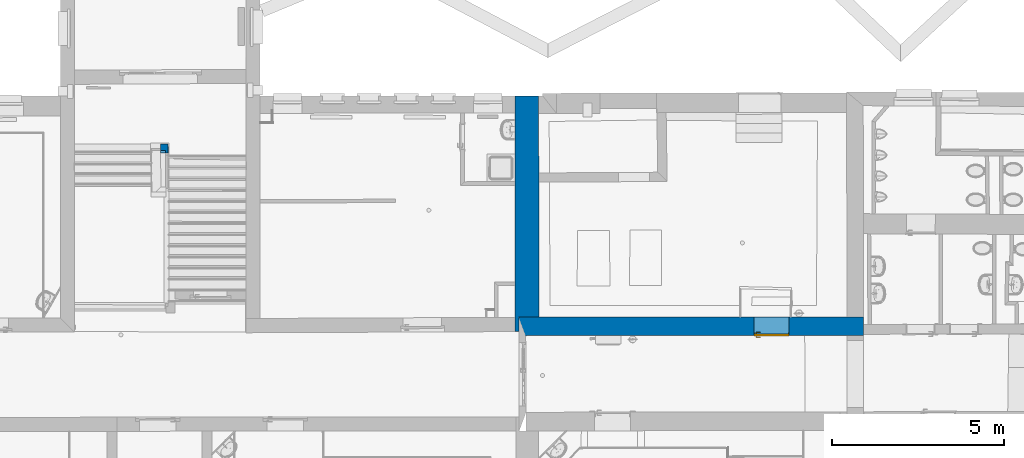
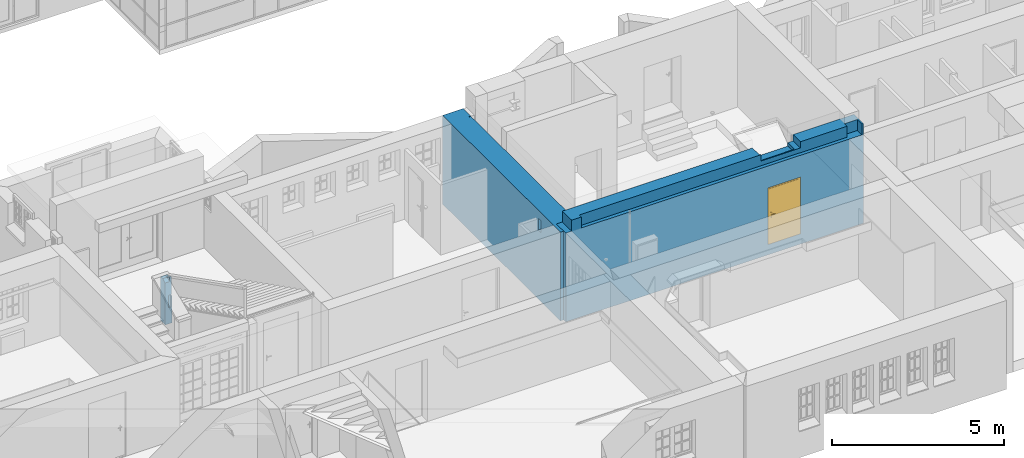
# One storey, part 92 of 196: 3 walls, 1 door, 4 openings.
"""IFC2X3 building model written with IfcOpenShell, lengths in metres."""

from ifc_helpers import new_model, entity, si_unit, converted_unit, derived_unit, money_unit, direction, frame, origin_with_axes, origin_2d_with_axis, place, context, subcontext, project, spatial, polyline, rectangle, outline, extrude, boolean, open_shell, faceted_brep, surface_model, material, type_object, element, fill, save


model = new_model("IFC2X3")

# Units and contexts
model_context = context("Model", 3, precision=1e-05, world=origin_with_axes(), true_north=direction((0.0, 1.0)))
body_context = subcontext(model_context, "Body", "Model", "MODEL_VIEW")
ifc_project = project(units=[si_unit("LENGTHUNIT", "METRE"), si_unit("AREAUNIT", "SQUARE_METRE"), si_unit("VOLUMEUNIT", "CUBIC_METRE"), converted_unit("PLANEANGLEUNIT", "DEGREE", entity("IfcPlaneAngleMeasure", 0.0174532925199), si_unit("PLANEANGLEUNIT", "RADIAN"), dimensions=[0, 0, 0, 0, 0, 0, 0]), money_unit("EUR"), converted_unit("TIMEUNIT", "Year", entity("IfcTimeMeasure", 31556926.0), si_unit("TIMEUNIT", "SECOND"), dimensions=[0, 0, 1, 0, 0, 0, 0]), si_unit("MASSUNIT", "GRAM", prefix="KILO"), si_unit("THERMODYNAMICTEMPERATUREUNIT", "DEGREE_CELSIUS"), si_unit("LUMINOUSINTENSITYUNIT", "LUMEN"), si_unit("ENERGYUNIT", "JOULE", prefix="MEGA"), derived_unit("THERMALCONDUCTANCEUNIT", [(si_unit("POWERUNIT", "WATT"), 1), (si_unit("LENGTHUNIT", "METRE"), -1), (si_unit("THERMODYNAMICTEMPERATUREUNIT", "KELVIN"), -1)]), derived_unit("SPECIFICHEATCAPACITYUNIT", [(si_unit("ENERGYUNIT", "JOULE"), 1), (si_unit("MASSUNIT", "GRAM", prefix="KILO"), -1), (si_unit("THERMODYNAMICTEMPERATUREUNIT", "KELVIN"), -1)]), derived_unit("MASSDENSITYUNIT", [(si_unit("MASSUNIT", "GRAM", prefix="KILO"), 1), (si_unit("VOLUMEUNIT", "CUBIC_METRE"), -1)])], contexts=[model_context])

# Site, building, storey
site_placement = place(None, origin_with_axes())
site = spatial("IfcSite", under=ifc_project, at=site_placement, Name="Gelände", CompositionType="ELEMENT")
building_placement = place(site_placement, origin_with_axes())
building = spatial("IfcBuilding", under=site, at=building_placement, Name="Gebäude", CompositionType="ELEMENT")
storey_placement = place(building_placement, frame((0.0, 0.0, -3.0), z_axis=(0.0, 0.0, 1.0), x_axis=(1.0, 0.0, 0.0)))
storey = spatial("IfcBuildingStorey", under=building, at=storey_placement, Name="KELLERGESCHOSS", CompositionType="ELEMENT", Elevation=-3.0)

# Wall
ifc_material = material(Name="05_ALLGEMEIN - TRAGENDE BAUTEILE")
wall_type_1 = type_object("IfcWallType", Name="05_ALLGEMEIN - TRAGENDE BAUTEILE 264", PredefinedType="ELEMENTEDWALL")
wall_1_placement = place(storey_placement, frame((-7.61079491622, 24.7121057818, -0.04), z_axis=(0.0, 0.0, 1.0), x_axis=(0.999982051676, 0.00599135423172, 0.0)))
element("IfcWall", 1, at=wall_1_placement, inside=storey, type_object=wall_type_1, material=ifc_material, Name="Wand-039", ObjectType="ELEMENTEDWALL", context=body_context, shape_type="CSG", body=[
    boolean("DIFFERENCE", extrude(outline(polyline([(0.0, -0.263583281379), (0.485772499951, -0.263583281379), (0.485772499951, 0.0), (0.0, 0.0), (0.0, -0.263583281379)])), origin_with_axes(), (0.0, 0.0, 1.0), 1.64745696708), faceted_brep([(0.484123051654, -0.263583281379, 0.573350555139), (0.484123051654, -0.263583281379, 0.976490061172), (0.485772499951, -0.263583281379, 0.976490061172), (0.485772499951, -0.263583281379, 1.64745696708), (0.484094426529, -0.263583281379, 1.64745696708), (0.484094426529, -0.263583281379, 1.00982293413), (0.382342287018, -0.263583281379, 1.01015037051), (0.382342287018, -0.263583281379, 0.573678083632), (0.484498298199, -0.204651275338, 0.54356630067), (0.484498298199, -0.204651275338, 0.976490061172), (0.485772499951, 0.0, 0.976490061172), (0.484469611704, -0.204651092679, 0.976490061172), (0.485772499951, 0.0, 1.5591306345), (0.485772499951, 0.0, 1.64745696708), (0.484102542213, -0.262308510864, 1.64745696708), (0.0, 0.0, 1.64745696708), (0.0, -0.263583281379, 1.64745696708), (0.411256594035, -0.263583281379, 1.64745696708), (0.411259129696, -0.261844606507, 1.64745696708), (0.484469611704, -0.204651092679, 0.980038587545), (0.484993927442, -0.122294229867, 1.5761521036), (0.484993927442, -0.122294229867, 1.55913013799), (0.382721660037, -0.204003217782, 0.980038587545), (0.382721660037, -0.204003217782, 0.54356630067), (0.263583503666, 0.0, 1.55894684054), (0.263583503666, 0.0, 0.0), (0.0, 0.0, 0.0), (0.0, -0.263583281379, 0.0), (0.411256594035, -0.263583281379, 1.49080072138), (0.263925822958, -0.263583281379, 0.0), (0.263925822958, -0.263583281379, 1.49069752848), (0.411462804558, -0.122187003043, 1.5587089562), (0.411462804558, -0.122187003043, 1.55906931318), (0.411462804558, -0.122187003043, 1.57633596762), (0.263741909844, -0.12197156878, 1.55894711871), (0.263741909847, -0.12197156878, 1.5587089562)], [[[0, 1, 2, 3, 4, 5, 6, 7]], [[1, 0, 8, 9]], [[10, 2, 1, 9, 11]], [[10, 12, 13, 3, 2]], [[14, 4, 3, 13, 15, 16, 17, 18]], [[12, 10, 11, 19, 5, 4, 14, 20, 21]], [[6, 5, 19, 22]], [[7, 6, 22, 23]], [[0, 7, 23, 8]], [[23, 22, 19, 11, 9, 8]], [[24, 25, 26, 15, 13, 12]], [[15, 26, 27, 16]], [[28, 17, 16, 27, 29, 30]], [[18, 17, 28, 31, 32, 33]], [[14, 18, 33, 20]], [[20, 33, 32, 21]], [[24, 12, 21, 32, 34]], [[30, 29, 25, 24, 34, 35]], [[25, 29, 27, 26]], [[28, 30, 35, 31]], [[35, 34, 32, 31]]])),
])

# Wall, openings, door
wall_type_2 = type_object("IfcWallType", Name="05_ALLGEMEIN - TRAGENDE BAUTEILE 538", PredefinedType="ELEMENTEDWALL")
wall_2_placement = place(storey_placement, frame((3.23831877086, 19.1591070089, -0.36), z_axis=(0.0, 0.0, 1.0), x_axis=(0.999999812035, 0.000613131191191, 0.0)))
wall_2 = element("IfcWall", 2, at=wall_2_placement, inside=storey, type_object=wall_type_2, material=ifc_material, Name="Wand-038", ObjectType="ELEMENTEDWALL", context=body_context, shape_type="CSG", body=[
    boolean("DIFFERENCE", boolean("DIFFERENCE", boolean("DIFFERENCE", boolean("DIFFERENCE", extrude(outline(polyline([(-0.201982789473, 0.0), (9.78961499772, 0.0), (9.78961499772, 0.537843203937), (-0.201982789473, 0.537843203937), (-0.201982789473, 0.0)])), origin_with_axes(), (0.0, 0.0, 1.0), 3.54), faceted_brep([(-0.200001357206, 0.0, 3.15), (0.0, 0.0, 3.15), (0.0, 0.0, 3.54), (-0.201982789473, 0.0, 3.54), (-0.201982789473, 0.0, 0.0), (-0.200001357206, 0.0, 0.0), (-0.201982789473, 0.537843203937, 3.15), (0.0, 0.537843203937, 3.15), (0.0, 0.537843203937, 3.54), (-0.201982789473, 0.537843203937, 3.54), (-0.201982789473, 0.537843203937, 0.0)], [[[0, 1, 2, 3, 4, 5]], [[1, 0, 6, 7]], [[8, 2, 1, 7]], [[2, 8, 9, 3]], [[6, 10, 4, 3, 9]], [[10, 5, 4]], [[0, 5, 10, 6]], [[7, 6, 9, 8]]])), faceted_brep([(6.37380234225, 0.537843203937, 3.54), (6.38171061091, 0.140979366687, 3.54), (7.56170069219, 0.155456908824, 3.54), (7.55963397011, 0.537843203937, 3.54), (6.37380234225, 0.537843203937, 3.19), (6.38171061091, 0.140979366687, 3.19), (6.38171061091, 0.140979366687, 3.505), (7.56170069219, 0.155456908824, 3.19), (7.56170069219, 0.155456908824, 3.505), (7.55963397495, 0.537843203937, 3.19)], [[[0, 1, 2, 3]], [[1, 0, 4, 5, 6]], [[2, 1, 6, 5, 7, 8]], [[3, 2, 8, 7, 9]], [[4, 0, 3, 9]], [[4, 9, 7, 5]]])), faceted_brep([(0.324066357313, 0.0, 3.15), (9.73943211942, 0.0, 3.15), (9.73943211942, 0.0, 3.54), (0.324066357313, 0.0, 3.54), (0.323947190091, 0.11928083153, 3.15), (9.30856249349, 0.116387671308, 3.15), (9.30858073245, 0.259817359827, 3.15), (9.73946562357, 0.263473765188, 3.15), (9.73946562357, 0.263473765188, 3.54), (0.323947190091, 0.11928083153, 3.54), (9.30858073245, 0.259817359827, 3.54), (9.30856249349, 0.116387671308, 3.54), (0.323947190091, 0.11928083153, 3.29), (9.30856249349, 0.116387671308, 3.29)], [[[0, 1, 2, 3]], [[1, 0, 4, 5, 6, 7]], [[8, 2, 1, 7]], [[9, 3, 2, 8, 10, 11]], [[0, 3, 9, 12, 4]], [[9, 11, 13, 5, 4, 12]], [[11, 10, 6, 5, 13]], [[10, 8, 7, 6]]])), faceted_brep([(9.78948896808, 0.537843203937, 3.54), (9.78961499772, 0.0, 3.54), (9.78961499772, 0.537843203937, 3.54), (9.78961499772, 0.0, 0.0), (9.78948896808, 0.537843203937, 0.0), (9.78961499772, 0.537843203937, 0.0)], [[[0, 1, 2]], [[3, 1, 0, 4]], [[1, 3, 5, 2]], [[4, 0, 2, 5]], [[3, 4, 5]]])),
])
opening_1_placement = place(wall_2_placement, frame((7.12612857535, 0.0, 0.372925), z_axis=(0.0, 0.0, 1.0), x_axis=(1.0, 0.0, 0.0)))
opening_1 = element("IfcOpeningElement", 3, at=opening_1_placement, cuts=wall_2, Name="Tür-022", context=body_context, shape_type="SweptSolid", body=[
    extrude(rectangle(XDim=1.00454069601, YDim=1.964683, at=origin_2d_with_axis()), frame((0.0, 0.537843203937, 0.9823415), z_axis=(0.0, 1.0, 0.0), x_axis=(1.0, 0.0, 0.0)), (0.0, 0.0, -1.0), 1.61352961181),
])
opening_2_placement = place(wall_2_placement, frame((7.0785824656, 0.0, 3.316246), z_axis=(0.0, 0.0, 1.0), x_axis=(1.0, 0.0, 0.0)))
element("IfcOpeningElement", 4, at=opening_2_placement, cuts=wall_2, Name="Tür-022", context=body_context, shape_type="SweptSolid", body=[
    extrude(rectangle(XDim=1.32313241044, YDim=0.223754, at=origin_2d_with_axis()), frame((0.0, 0.537843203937, 0.111877), z_axis=(0.0, 1.0, 0.0), x_axis=(-1.0, 0.0, 0.0)), (0.0, 0.0, -1.0), 1.61352961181),
])
door_style = type_object("IfcDoorStyle", Name="Blockrahmentür 1-Fl 25", ConstructionType="NOTDEFINED", OperationType="SINGLE_SWING_LEFT", ParameterTakesPrecedence=False, Sizeable=False)
door_placement = place(opening_1_placement, frame((0.487270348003, 0.0, 0.0), z_axis=(0.0, 0.0, 1.0), x_axis=(-1.0, 0.0, 0.0)))
door = element("IfcDoor", 5, at=door_placement, inside=storey, type_object=door_style, Name="Tür-022", ObjectType="NOTDEFINED", OverallHeight=1.96468, OverallWidth=1.00454, context=body_context, shape_type="SurfaceModel", body=[
    faceted_brep([(-0.015, -0.093, 0.0), (-0.015, -0.093, 1.964683), (-0.015, -0.048, 1.964683), (-0.015, -0.048, 0.0), (0.0, -0.093, 0.0), (0.0, -0.093, 1.949683), (0.372170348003, -0.093, 1.949683), (0.487170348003, -0.093, 1.949683), (0.974540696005, -0.093, 1.949683), (0.974540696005, -0.093, 0.0), (0.989540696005, -0.093, 0.0), (0.989540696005, -0.093, 1.964683), (0.989540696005, -0.048, 1.964683), (0.989540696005, -0.048, 0.0), (0.974540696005, -0.048, 0.0), (0.974540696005, -0.048, 1.949683), (0.487170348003, -0.048, 1.949683), (0.372170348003, -0.048, 1.949683), (0.0, -0.048, 1.949683), (0.0, -0.048, 0.0)], [[[0, 1, 2, 3]], [[0, 4, 5, 6, 7, 8, 9, 10, 11, 1]], [[1, 11, 12, 2]], [[3, 2, 12, 13, 14, 15, 16, 17, 18, 19]], [[4, 0, 3, 19]], [[5, 4, 19, 18]], [[6, 5, 18, 17]], [[7, 6, 17, 16]], [[8, 7, 16, 15]], [[9, 8, 15, 14]], [[10, 9, 14, 13]], [[11, 10, 13, 12]]]),
    surface_model("IfcShellBasedSurfaceModel", [(-0.015, -0.048, 0.0), (-0.015, -0.048, 1.964683), (-0.015, 0.002, 1.964683), (-0.015, 0.002, 0.0), (0.989540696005, -0.048, 1.964683), (0.472170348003, -0.048, 1.964683), (0.387170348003, -0.048, 1.964683), (0.387170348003, 0.002, 1.964683), (0.472170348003, 0.002, 1.964683), (0.989540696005, 0.002, 1.964683), (-0.015, 0.002, 1.964683), (-0.015, -0.048, 1.964683), (0.989540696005, 0.002, 1.964683), (0.989540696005, -0.048, 0.0), (0.989540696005, 0.002, 0.0), (0.989540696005, -0.048, 1.964683)], [open_shell([[[0, 1, 2, 3]], [[4, 5, 6, 1]], [[1, 6, 7, 2]], [[7, 8, 9, 10]], [[11, 0, 3, 10]], [[4, 11, 10, 12]], [[13, 4, 12, 14]], [[15, 13, 14, 9]], [[5, 15, 9, 8]], [[6, 5, 8, 7]]])]),
    faceted_brep([(-0.055, 0.0, 0.0), (-0.055, 0.0, 2.004683), (-0.055, 0.002, 2.004683), (-0.055, 0.002, 0.0), (-0.015, 0.0, 0.0), (-0.015, 0.0, 1.964683), (0.989540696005, 0.0, 1.964683), (0.989540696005, 0.0, 0.0), (1.02954069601, 0.0, 0.0), (1.02954069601, 0.0, 2.004683), (1.02954069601, 0.002, 2.004683), (1.02954069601, 0.002, 0.0), (0.989540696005, 0.002, 0.0), (0.989540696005, 0.002, 1.964683), (-0.015, 0.002, 1.964683), (-0.015, 0.002, 0.0)], [[[0, 1, 2, 3]], [[0, 4, 5, 6, 7, 8, 9, 1]], [[1, 9, 10, 2]], [[3, 2, 10, 11, 12, 13, 14, 15]], [[4, 0, 3, 15]], [[5, 4, 15, 14]], [[6, 5, 14, 13]], [[7, 6, 13, 12]], [[8, 7, 12, 11]], [[9, 8, 11, 10]]]),
    faceted_brep([(-0.015, 0.007, 0.0), (-0.015, 0.007, 1.964683), (0.989540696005, 0.007, 1.964683), (0.989540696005, 0.007, 0.0), (-0.015, -0.048, 0.0), (-0.015, -0.048, 1.964683), (0.989540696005, -0.048, 1.964683), (0.989540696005, -0.048, 0.0)], [[[0, 1, 2, 3]], [[0, 4, 5, 1]], [[1, 5, 6, 2]], [[2, 6, 7, 3]], [[3, 7, 4, 0]], [[7, 6, 5, 4]]]),
    faceted_brep([(0.934242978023, -0.088, 1.05647213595), (0.934242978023, -0.068, 1.05647213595), (0.929540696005, -0.068, 1.058), (0.929540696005, -0.088, 1.058), (0.937149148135, -0.088, 1.05247213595), (0.937149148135, -0.068, 1.05247213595), (0.935418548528, -0.066, 1.05809016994), (0.929540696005, -0.066, 1.06), (0.924838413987, -0.068, 1.05647213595), (0.924838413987, -0.088, 1.05647213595), (0.921932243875, -0.088, 1.05247213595), (0.921932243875, -0.088, 1.04752786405), (0.924838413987, -0.088, 1.04352786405), (0.929540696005, -0.088, 1.042), (0.934242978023, -0.088, 1.04352786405), (0.937149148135, -0.088, 1.04752786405), (0.937149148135, -0.068, 1.04752786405), (0.939051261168, -0.066, 1.05309016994), (0.935418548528, -0.058, 1.05809016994), (0.929540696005, -0.058, 1.06), (0.923662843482, -0.066, 1.05809016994), (0.921932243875, -0.068, 1.05247213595), (0.921932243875, -0.068, 1.04752786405), (0.924838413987, -0.068, 1.04352786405), (0.929540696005, -0.068, 1.042), (0.934242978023, -0.068, 1.04352786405), (0.939051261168, -0.066, 1.04690983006), (0.939051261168, -0.058, 1.05309016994), (0.939051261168, -0.058, 1.04690983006), (0.935418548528, -0.058, 1.04190983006), (0.929540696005, -0.058, 1.04), (0.923662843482, -0.058, 1.04190983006), (0.920030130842, -0.058, 1.04690983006), (0.920030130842, -0.058, 1.05309016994), (0.923662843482, -0.058, 1.05809016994), (0.920030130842, -0.066, 1.05309016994), (0.920030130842, -0.066, 1.04690983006), (0.923662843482, -0.066, 1.04190983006), (0.929540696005, -0.066, 1.04), (0.935418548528, -0.066, 1.04190983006)], [[[0, 1, 2, 3]], [[4, 5, 1, 0]], [[1, 6, 7, 2]], [[3, 2, 8, 9]], [[3, 9, 10, 11, 12, 13, 14, 15, 4, 0]], [[15, 16, 5, 4]], [[5, 17, 6, 1]], [[6, 18, 19, 7]], [[2, 7, 20, 8]], [[9, 8, 21, 10]], [[10, 21, 22, 11]], [[11, 22, 23, 12]], [[12, 23, 24, 13]], [[13, 24, 25, 14]], [[14, 25, 16, 15]], [[16, 26, 17, 5]], [[17, 27, 18, 6]], [[19, 18, 27, 28, 29, 30, 31, 32, 33, 34]], [[7, 19, 34, 20]], [[8, 20, 35, 21]], [[21, 35, 36, 22]], [[22, 36, 37, 23]], [[23, 37, 38, 24]], [[24, 38, 39, 25]], [[25, 39, 26, 16]], [[26, 28, 27, 17]], [[39, 29, 28, 26]], [[38, 30, 29, 39]], [[37, 31, 30, 38]], [[36, 32, 31, 37]], [[35, 33, 32, 36]], [[20, 34, 33, 35]]]),
    faceted_brep([(0.91735231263, -0.058, 1.11759695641), (0.912740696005, -0.058, 1.11), (0.907040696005, -0.058, 1.11), (0.907040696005, -0.058, 0.89), (0.912740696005, -0.058, 0.89), (0.91735231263, -0.058, 0.882403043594), (0.92509714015, -0.058, 0.878044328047), (0.93398425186, -0.058, 0.878044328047), (0.94172907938, -0.058, 0.882403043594), (0.946340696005, -0.058, 0.89), (0.952040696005, -0.058, 0.89), (0.952040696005, -0.058, 1.11), (0.946340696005, -0.058, 1.11), (0.94172907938, -0.058, 1.11759695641), (0.93398425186, -0.058, 1.12195567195), (0.92509714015, -0.058, 1.12195567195), (0.929540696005, -0.058, 0.967425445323), (0.93491587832, -0.058, 0.965143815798), (0.937008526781, -0.058, 0.959692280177), (0.934540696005, -0.058, 0.9544), (0.934540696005, -0.058, 0.9375), (0.933076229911, -0.058, 0.933964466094), (0.929540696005, -0.058, 0.9325), (0.926005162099, -0.058, 0.933964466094), (0.924540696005, -0.058, 0.9375), (0.924540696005, -0.058, 0.9544), (0.922072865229, -0.058, 0.959692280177), (0.92416551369, -0.058, 0.965143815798), (0.91735231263, -0.048, 1.11759695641), (0.912740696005, -0.048, 1.11), (0.907040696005, -0.048, 1.11), (0.907040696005, -0.048, 0.89), (0.912740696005, -0.048, 0.89), (0.91735231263, -0.048, 0.882403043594), (0.92509714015, -0.048, 0.878044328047), (0.93398425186, -0.048, 0.878044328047), (0.94172907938, -0.048, 0.882403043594), (0.946340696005, -0.048, 0.89), (0.952040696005, -0.048, 0.89), (0.952040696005, -0.048, 1.11), (0.946340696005, -0.048, 1.11), (0.94172907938, -0.048, 1.11759695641), (0.93398425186, -0.048, 1.12195567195), (0.92509714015, -0.048, 1.12195567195), (0.929540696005, -0.048, 0.967425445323), (0.93491587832, -0.048, 0.965143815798), (0.937008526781, -0.048, 0.959692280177), (0.934540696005, -0.048, 0.9544), (0.934540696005, -0.048, 0.9375), (0.933076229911, -0.048, 0.933964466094), (0.929540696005, -0.048, 0.9325), (0.926005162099, -0.048, 0.933964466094), (0.924540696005, -0.048, 0.9375), (0.924540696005, -0.048, 0.9544), (0.922072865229, -0.048, 0.959692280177), (0.92416551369, -0.048, 0.965143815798)], [[[0, 1, 2, 3, 4, 5, 6, 7, 8, 9, 10, 11, 12, 13, 14, 15], [16, 17, 18, 19, 20, 21, 22, 23, 24, 25, 26, 27]], [[0, 28, 29, 1]], [[1, 29, 30, 2]], [[2, 30, 31, 3]], [[3, 31, 32, 4]], [[4, 32, 33, 5]], [[5, 33, 34, 6]], [[6, 34, 35, 7]], [[7, 35, 36, 8]], [[8, 36, 37, 9]], [[9, 37, 38, 10]], [[10, 38, 39, 11]], [[11, 39, 40, 12]], [[12, 40, 41, 13]], [[13, 41, 42, 14]], [[14, 42, 43, 15]], [[15, 43, 28, 0]], [[16, 44, 45, 17]], [[17, 45, 46, 18]], [[18, 46, 47, 19]], [[47, 48, 20, 19]], [[21, 20, 48, 49]], [[22, 21, 49, 50]], [[23, 22, 50, 51]], [[24, 23, 51, 52]], [[25, 24, 52, 53]], [[25, 53, 54, 26]], [[26, 54, 55, 27]], [[27, 55, 44, 16]], [[32, 31, 30, 29, 28, 43, 42, 41, 40, 39, 38, 37, 36, 35, 34, 33], [46, 45, 44, 55, 54, 53, 52, 51, 50, 49, 48, 47]]]),
    faceted_brep([(0.815287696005, -0.088, 1.057158), (0.815286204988, -0.088, 1.05719388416), (0.815286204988, -0.103, 1.05719388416), (0.815287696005, -0.103, 1.057158), (0.842315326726, -0.088, 1.06432652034), (0.870143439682, -0.088, 1.06706086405), (0.898049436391, -0.088, 1.06529002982), (0.925308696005, -0.088, 1.05906), (0.931711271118, -0.088, 1.05976125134), (0.937213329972, -0.088, 1.05641280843), (0.939532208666, -0.088, 1.05040385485), (0.937705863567, -0.088, 1.04422735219), (0.93249199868, -0.088, 1.04044577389), (0.926053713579, -0.088, 1.04062800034), (0.921062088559, -0.088, 1.04469843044), (0.921082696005, -0.088, 1.044666), (0.895793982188, -0.088, 1.05019878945), (0.869951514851, -0.088, 1.05171460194), (0.844189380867, -0.088, 1.04917624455), (0.819139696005, -0.088, 1.042646), (0.813596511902, -0.088, 1.04356849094), (0.810234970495, -0.088, 1.04807159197), (0.81092654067, -0.088, 1.05364829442), (0.81092654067, -0.103, 1.05364829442), (0.810234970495, -0.103, 1.04807159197), (0.813596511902, -0.103, 1.04356849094), (0.819139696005, -0.103, 1.042646), (0.844189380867, -0.103, 1.04917624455), (0.869951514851, -0.103, 1.05171460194), (0.895793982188, -0.103, 1.05019878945), (0.921082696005, -0.103, 1.044666), (0.921062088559, -0.103, 1.04469843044), (0.926053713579, -0.103, 1.04062800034), (0.93249199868, -0.103, 1.04044577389), (0.937705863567, -0.103, 1.04422735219), (0.939532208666, -0.103, 1.05040385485), (0.937213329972, -0.103, 1.05641280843), (0.931711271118, -0.103, 1.05976125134), (0.925308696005, -0.103, 1.05906), (0.898049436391, -0.103, 1.06529002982), (0.870143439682, -0.103, 1.06706086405), (0.842315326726, -0.103, 1.06432652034)], [[[0, 1, 2, 3]], [[0, 4, 5, 6, 7, 8, 9, 10, 11, 12, 13, 14, 15, 16, 17, 18, 19, 20, 21, 22, 1]], [[1, 22, 23, 2]], [[3, 2, 23, 24, 25, 26, 27, 28, 29, 30, 31, 32, 33, 34, 35, 36, 37, 38, 39, 40, 41]], [[4, 0, 3, 41]], [[5, 4, 41, 40]], [[6, 5, 40, 39]], [[7, 6, 39, 38]], [[8, 7, 38, 37]], [[9, 8, 37, 36]], [[10, 9, 36, 35]], [[11, 10, 35, 34]], [[12, 11, 34, 33]], [[13, 12, 33, 32]], [[14, 13, 32, 31]], [[15, 14, 31, 30]], [[16, 15, 30, 29]], [[17, 16, 29, 28]], [[18, 17, 28, 27]], [[19, 18, 27, 26]], [[20, 19, 26, 25]], [[21, 20, 25, 24]], [[22, 21, 24, 23]]]),
    faceted_brep([(0.934242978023, 0.047, 1.05647213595), (0.929540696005, 0.047, 1.058), (0.929540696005, 0.027, 1.058), (0.934242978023, 0.027, 1.05647213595), (0.937149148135, 0.047, 1.05247213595), (0.937149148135, 0.047, 1.04752786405), (0.934242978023, 0.047, 1.04352786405), (0.929540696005, 0.047, 1.042), (0.924838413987, 0.047, 1.04352786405), (0.921932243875, 0.047, 1.04752786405), (0.921932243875, 0.047, 1.05247213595), (0.924838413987, 0.047, 1.05647213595), (0.924838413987, 0.027, 1.05647213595), (0.929540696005, 0.025, 1.06), (0.935418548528, 0.025, 1.05809016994), (0.937149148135, 0.027, 1.05247213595), (0.937149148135, 0.027, 1.04752786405), (0.934242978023, 0.027, 1.04352786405), (0.929540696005, 0.027, 1.042), (0.924838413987, 0.027, 1.04352786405), (0.921932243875, 0.027, 1.04752786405), (0.921932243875, 0.027, 1.05247213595), (0.923662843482, 0.025, 1.05809016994), (0.929540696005, 0.017, 1.06), (0.935418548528, 0.017, 1.05809016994), (0.939051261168, 0.025, 1.05309016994), (0.939051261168, 0.025, 1.04690983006), (0.935418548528, 0.025, 1.04190983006), (0.929540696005, 0.025, 1.04), (0.923662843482, 0.025, 1.04190983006), (0.920030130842, 0.025, 1.04690983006), (0.920030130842, 0.025, 1.05309016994), (0.923662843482, 0.017, 1.05809016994), (0.920030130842, 0.017, 1.05309016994), (0.920030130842, 0.017, 1.04690983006), (0.923662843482, 0.017, 1.04190983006), (0.929540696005, 0.017, 1.04), (0.935418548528, 0.017, 1.04190983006), (0.939051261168, 0.017, 1.04690983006), (0.939051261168, 0.017, 1.05309016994)], [[[0, 1, 2, 3]], [[1, 0, 4, 5, 6, 7, 8, 9, 10, 11]], [[1, 11, 12, 2]], [[3, 2, 13, 14]], [[4, 0, 3, 15]], [[5, 4, 15, 16]], [[6, 5, 16, 17]], [[7, 6, 17, 18]], [[8, 7, 18, 19]], [[9, 8, 19, 20]], [[10, 9, 20, 21]], [[11, 10, 21, 12]], [[2, 12, 22, 13]], [[14, 13, 23, 24]], [[15, 3, 14, 25]], [[16, 15, 25, 26]], [[17, 16, 26, 27]], [[18, 17, 27, 28]], [[19, 18, 28, 29]], [[20, 19, 29, 30]], [[21, 20, 30, 31]], [[12, 21, 31, 22]], [[13, 22, 32, 23]], [[23, 32, 33, 34, 35, 36, 37, 38, 39, 24]], [[25, 14, 24, 39]], [[26, 25, 39, 38]], [[27, 26, 38, 37]], [[28, 27, 37, 36]], [[29, 28, 36, 35]], [[30, 29, 35, 34]], [[31, 30, 34, 33]], [[22, 31, 33, 32]]]),
    faceted_brep([(0.91735231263, 0.007, 1.11759695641), (0.912740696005, 0.007, 1.11), (0.907040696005, 0.007, 1.11), (0.907040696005, 0.007, 0.89), (0.912740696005, 0.007, 0.89), (0.91735231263, 0.007, 0.882403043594), (0.92509714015, 0.007, 0.878044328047), (0.93398425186, 0.007, 0.878044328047), (0.94172907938, 0.007, 0.882403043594), (0.946340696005, 0.007, 0.89), (0.952040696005, 0.007, 0.89), (0.952040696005, 0.007, 1.11), (0.946340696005, 0.007, 1.11), (0.94172907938, 0.007, 1.11759695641), (0.93398425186, 0.007, 1.12195567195), (0.92509714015, 0.007, 1.12195567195), (0.929540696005, 0.007, 0.967425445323), (0.93491587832, 0.007, 0.965143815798), (0.937008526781, 0.007, 0.959692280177), (0.934540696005, 0.007, 0.9544), (0.934540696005, 0.007, 0.9375), (0.933076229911, 0.007, 0.933964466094), (0.929540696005, 0.007, 0.9325), (0.926005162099, 0.007, 0.933964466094), (0.924540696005, 0.007, 0.9375), (0.924540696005, 0.007, 0.9544), (0.922072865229, 0.007, 0.959692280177), (0.92416551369, 0.007, 0.965143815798), (0.91735231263, 0.017, 1.11759695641), (0.912740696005, 0.017, 1.11), (0.907040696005, 0.017, 1.11), (0.907040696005, 0.017, 0.89), (0.912740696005, 0.017, 0.89), (0.91735231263, 0.017, 0.882403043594), (0.92509714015, 0.017, 0.878044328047), (0.93398425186, 0.017, 0.878044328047), (0.94172907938, 0.017, 0.882403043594), (0.946340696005, 0.017, 0.89), (0.952040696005, 0.017, 0.89), (0.952040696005, 0.017, 1.11), (0.946340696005, 0.017, 1.11), (0.94172907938, 0.017, 1.11759695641), (0.93398425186, 0.017, 1.12195567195), (0.92509714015, 0.017, 1.12195567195), (0.929540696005, 0.017, 0.967425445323), (0.93491587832, 0.017, 0.965143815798), (0.937008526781, 0.017, 0.959692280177), (0.934540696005, 0.017, 0.9544), (0.934540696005, 0.017, 0.9375), (0.933076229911, 0.017, 0.933964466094), (0.929540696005, 0.017, 0.9325), (0.926005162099, 0.017, 0.933964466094), (0.924540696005, 0.017, 0.9375), (0.924540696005, 0.017, 0.9544), (0.922072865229, 0.017, 0.959692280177), (0.92416551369, 0.017, 0.965143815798)], [[[0, 1, 2, 3, 4, 5, 6, 7, 8, 9, 10, 11, 12, 13, 14, 15], [16, 17, 18, 19, 20, 21, 22, 23, 24, 25, 26, 27]], [[28, 29, 1, 0]], [[29, 30, 2, 1]], [[30, 31, 3, 2]], [[31, 32, 4, 3]], [[32, 33, 5, 4]], [[33, 34, 6, 5]], [[34, 35, 7, 6]], [[35, 36, 8, 7]], [[36, 37, 9, 8]], [[37, 38, 10, 9]], [[38, 39, 11, 10]], [[39, 40, 12, 11]], [[40, 41, 13, 12]], [[41, 42, 14, 13]], [[42, 43, 15, 14]], [[43, 28, 0, 15]], [[16, 44, 45, 17]], [[17, 45, 46, 18]], [[18, 46, 47, 19]], [[47, 48, 20, 19]], [[21, 20, 48, 49]], [[22, 21, 49, 50]], [[23, 22, 50, 51]], [[24, 23, 51, 52]], [[25, 24, 52, 53]], [[25, 53, 54, 26]], [[26, 54, 55, 27]], [[27, 55, 44, 16]], [[32, 31, 30, 29, 28, 43, 42, 41, 40, 39, 38, 37, 36, 35, 34, 33], [46, 45, 44, 55, 54, 53, 52, 51, 50, 49, 48, 47]]]),
    faceted_brep([(0.815287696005, 0.047, 1.057158), (0.815287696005, 0.062, 1.057158), (0.815286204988, 0.062, 1.05719388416), (0.815286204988, 0.047, 1.05719388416), (0.842315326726, 0.047, 1.06432652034), (0.842315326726, 0.062, 1.06432652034), (0.870143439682, 0.062, 1.06706086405), (0.898049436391, 0.062, 1.06529002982), (0.925308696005, 0.062, 1.05906), (0.931711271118, 0.062, 1.05976125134), (0.937213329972, 0.062, 1.05641280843), (0.939532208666, 0.062, 1.05040385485), (0.937705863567, 0.062, 1.04422735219), (0.93249199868, 0.062, 1.04044577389), (0.926053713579, 0.062, 1.04062800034), (0.921062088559, 0.062, 1.04469843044), (0.921082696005, 0.062, 1.044666), (0.895793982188, 0.062, 1.05019878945), (0.869951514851, 0.062, 1.05171460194), (0.844189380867, 0.062, 1.04917624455), (0.819139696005, 0.062, 1.042646), (0.813596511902, 0.062, 1.04356849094), (0.810234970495, 0.062, 1.04807159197), (0.81092654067, 0.062, 1.05364829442), (0.81092654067, 0.047, 1.05364829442), (0.810234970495, 0.047, 1.04807159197), (0.813596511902, 0.047, 1.04356849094), (0.819139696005, 0.047, 1.042646), (0.844189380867, 0.047, 1.04917624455), (0.869951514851, 0.047, 1.05171460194), (0.895793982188, 0.047, 1.05019878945), (0.921082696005, 0.047, 1.044666), (0.921062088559, 0.047, 1.04469843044), (0.926053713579, 0.047, 1.04062800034), (0.93249199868, 0.047, 1.04044577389), (0.937705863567, 0.047, 1.04422735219), (0.939532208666, 0.047, 1.05040385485), (0.937213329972, 0.047, 1.05641280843), (0.931711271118, 0.047, 1.05976125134), (0.925308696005, 0.047, 1.05906), (0.898049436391, 0.047, 1.06529002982), (0.870143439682, 0.047, 1.06706086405)], [[[0, 1, 2, 3]], [[4, 5, 1, 0]], [[1, 5, 6, 7, 8, 9, 10, 11, 12, 13, 14, 15, 16, 17, 18, 19, 20, 21, 22, 23, 2]], [[3, 2, 23, 24]], [[0, 3, 24, 25, 26, 27, 28, 29, 30, 31, 32, 33, 34, 35, 36, 37, 38, 39, 40, 41, 4]], [[41, 6, 5, 4]], [[40, 7, 6, 41]], [[39, 8, 7, 40]], [[38, 9, 8, 39]], [[37, 10, 9, 38]], [[36, 11, 10, 37]], [[35, 12, 11, 36]], [[34, 13, 12, 35]], [[33, 14, 13, 34]], [[32, 15, 14, 33]], [[31, 16, 15, 32]], [[30, 17, 16, 31]], [[29, 18, 17, 30]], [[28, 19, 18, 29]], [[27, 20, 19, 28]], [[26, 21, 20, 27]], [[25, 22, 21, 26]], [[24, 23, 22, 25]]]),
])
fill(opening_1, door)

# Wall, openings
wall_type_3 = type_object("IfcWallType", Name="05_ALLGEMEIN - TRAGENDE BAUTEILE 690", PredefinedType="ELEMENTEDWALL")
wall_3_placement = place(storey_placement, frame((3.62108026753, 19.2820486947, -0.36), z_axis=(0.0, 0.0, 1.0), x_axis=(-0.0010354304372, 0.999999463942, 0.0)))
wall_3 = element("IfcWall", 6, at=wall_3_placement, inside=storey, type_object=wall_type_3, material=ifc_material, Name="Wand-039", ObjectType="ELEMENTEDWALL", context=body_context, shape_type="CSG", body=[
    boolean("DIFFERENCE", boolean("DIFFERENCE", boolean("DIFFERENCE", extrude(outline(polyline([(-0.00227273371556, 0.0), (6.83173457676, 0.0), (6.83173457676, 0.69), (-0.00227273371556, 0.69), (-0.00227273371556, 0.0)])), origin_with_axes(), (0.0, 0.0, 1.0), 3.15), faceted_brep([(6.83173457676, 0.69, 3.15), (6.83148095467, 0.0, 3.15), (6.83173457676, 0.0, 3.15), (6.83148095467, 0.0, 0.0), (6.83173457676, 0.69, 0.0), (6.83173457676, 0.0, 0.0)], [[[0, 1, 2]], [[3, 1, 0, 4]], [[1, 3, 5, 2]], [[4, 0, 2, 5]], [[3, 4, 5]]])), faceted_brep([(6.38615031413, 0.0577927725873, 3.15), (4.59768042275, 0.0577927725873, 3.15), (4.59768042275, 0.0, 3.15), (6.38615031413, 0.0, 3.15), (6.38615031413, 0.0577927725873, 3.14197566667), (4.59768042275, 0.0577927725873, 3.14197566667), (4.59768042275, 0.0, 3.14197566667), (6.38615031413, 0.0, 3.14197566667)], [[[0, 1, 2, 3]], [[1, 0, 4, 5]], [[6, 2, 1, 5]], [[7, 3, 2, 6]], [[0, 3, 7, 4]], [[7, 6, 5, 4]]])), faceted_brep([(0.415136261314, 0.0, 0.0), (0.415136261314, 0.0, 3.15), (-0.00227273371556, 0.0, 3.15), (-0.00227273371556, 0.0, 0.0), (0.415297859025, 0.382661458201, 3.15), (0.415383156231, 0.584644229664, 0.0), (0.415383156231, 0.584644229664, 3.15), (-0.00192122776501, 0.583283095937, 3.15), (-0.00227273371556, 0.69, 3.15), (-0.00227273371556, 0.69, 0.0), (-0.00192122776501, 0.583283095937, 0.0)], [[[0, 1, 2, 3]], [[4, 1, 0, 5, 6]], [[7, 8, 2, 1, 4, 6]], [[8, 9, 3, 2]], [[5, 0, 3, 9, 10]], [[7, 6, 5, 10]], [[8, 7, 10, 9]]])),
])
opening_3_placement = place(wall_3_placement, frame((1.2055680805, 0.0, 2.45272466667), z_axis=(0.0, 0.0, 1.0), x_axis=(1.0, 0.0, 0.0)))
element("IfcOpeningElement", 7, at=opening_3_placement, cuts=wall_3, Name="Fenster-018", context=body_context, shape_type="SweptSolid", body=[
    extrude(rectangle(XDim=0.159781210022, YDim=0.416654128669, at=origin_2d_with_axis()), frame((0.0, -0.69, 0.208327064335), z_axis=(0.0, 1.0, 0.0), x_axis=(-1.0, 0.0, 0.0)), (0.0, 0.0, 1.0), 2.07),
])
opening_4_placement = place(wall_3_placement, frame((5.45925312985, 0.0, 3.143), z_axis=(0.0, 0.0, 1.0), x_axis=(1.0, 0.0, 0.0)))
element("IfcOpeningElement", 8, at=opening_4_placement, cuts=wall_3, Name="Fenster-018", ObjectType="Recess", context=body_context, shape_type="SweptSolid", body=[
    extrude(rectangle(XDim=1.72314541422, YDim=0.406, at=origin_2d_with_axis()), frame((0.0, 0.055, 0.203), z_axis=(0.0, 1.0, 0.0), x_axis=(-1.0, 0.0, 0.0)), (0.0, 0.0, -1.0), 0.745),
])

save(model, "model.ifc")
